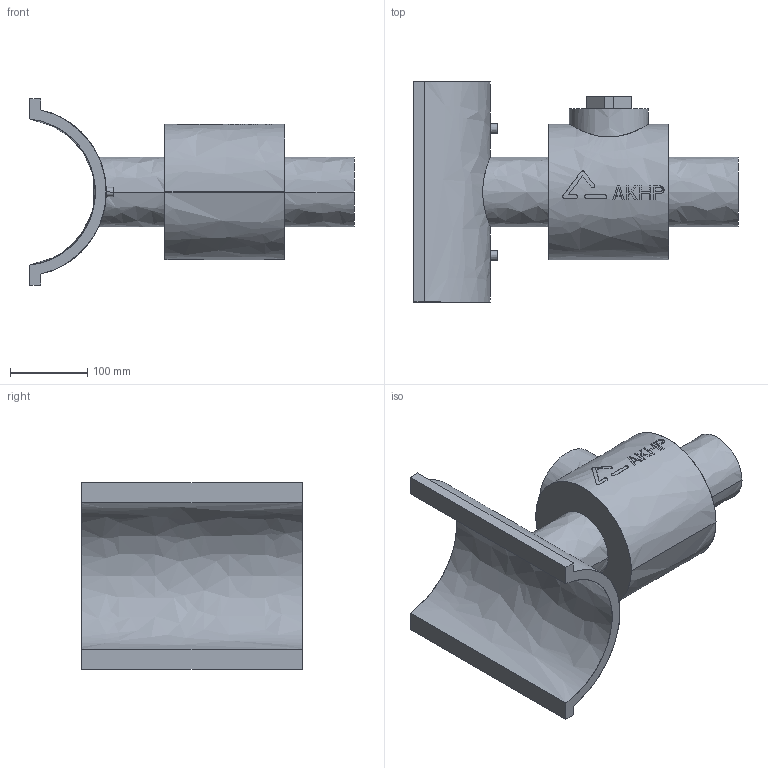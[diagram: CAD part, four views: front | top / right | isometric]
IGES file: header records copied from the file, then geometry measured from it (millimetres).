
Start section:  PTC IGES file: akhp_d180_d90.igs
Global section: file name: akhp_d180_d90.igs; native system: Pro/ENGINEER by Parametric Technology Corporation; preprocessor: 2006140; author: muellerc; organization: Unknown; date: 20060811.100547; units: millimetre
Bounding box: 420 x 285 x 241 mm (x, y, z)
Surface area: 386003 mm2 (no closed solid volume)
Topology: 0 solids, 0 shells, 123 faces, 674 edges, 680 vertices
Faces by surface type: bspline 123
